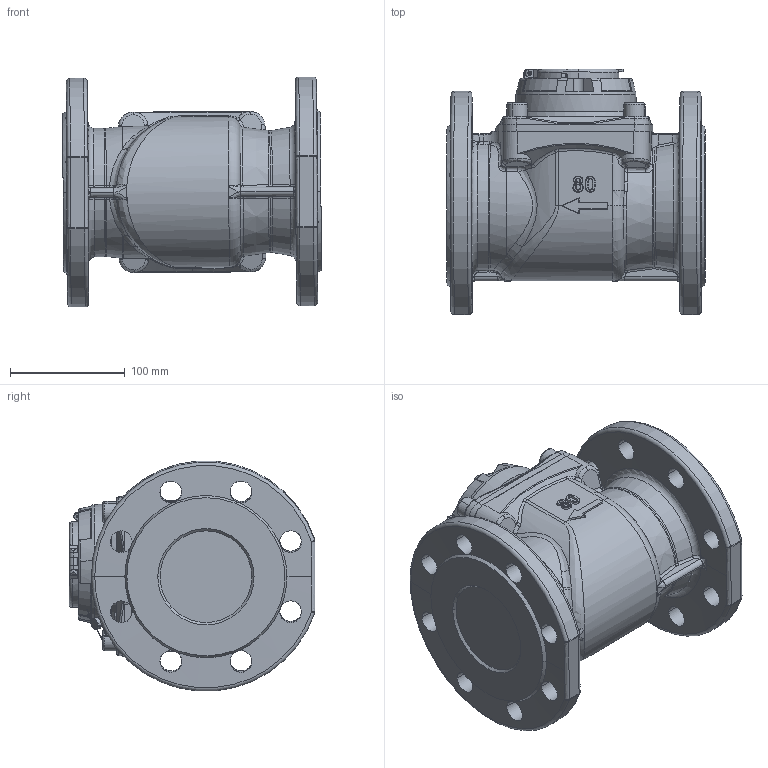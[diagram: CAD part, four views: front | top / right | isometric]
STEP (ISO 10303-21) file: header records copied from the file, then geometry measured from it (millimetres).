
FILE_DESCRIPTION (( 'STEP AP214' ), '1' );
FILE_NAME ('MWN80 IP65 NKO.STEP', '2025-07-09T12:13:57', ( '' ), ( '' ), 'SwSTEP 2.0', 'SolidWorks 2019', '' );
FILE_SCHEMA (( 'AUTOMOTIVE_DESIGN' ));
Length unit declared in the file: millimetre
Products named in the file (1): MWN80 IP65 NKO
Bounding box: 225.77 x 214.3 x 200.57 mm (x, y, z)
Volume: 3993991.7 mm3; surface area: 318686.7 mm2
Topology: 7 solids, 23 shells, 1450 faces, 3714 edges, 2300 vertices
Faces by surface type: plane 523, bspline 435, cylinder 264, cone 121, torus 90, sphere 17
Entity records: 82655 total; most frequent: CARTESIAN_POINT 35449, ORIENTED_EDGE 7298, DIRECTION 5316, EDGE_CURVE 3649, VERTEX_POINT 2299, AXIS2_PLACEMENT_3D 1866, VECTOR 1584, LINE 1584
